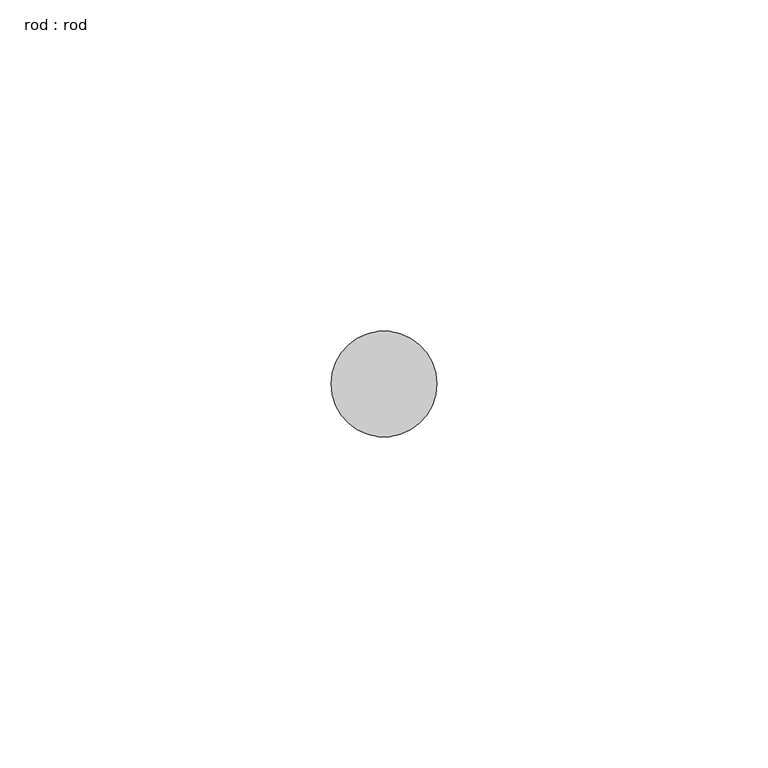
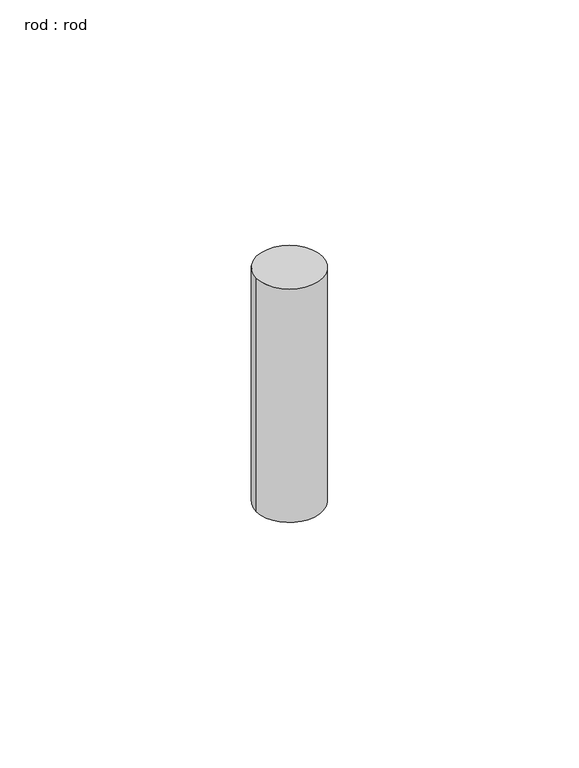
"""IFC4 building model written with IfcOpenShell, lengths in millimetres: unitary equipment geometry, rod : rod."""

from ifc_helpers import new_model, si_unit, point, origin, origin_with_axes, origin_2d, place, context, project, spatial, circle_curve, trimmed, segment, composite_curve, outline, extrude, source, transform, mapped, element, save


def rod_rod_bda5fcc9(model_context):
    return source(origin(), model_context, "Body", "SweptSolid", [
        extrude(outline(composite_curve([segment(trimmed(circle_curve(origin_2d(), 8.0), [point((8.0, 0.0))], [point((-8.0, 0.0))], False, "CARTESIAN"), True, "CONTINUOUS"), segment(trimmed(circle_curve(origin_2d(), 8.0), [point((-8.0, 0.0))], [point((8.0, 0.0))], False, "CARTESIAN"), True, "CONTINUOUS")], self_intersect=False)), origin_with_axes(), (0.0, 0.0, 1.0), 60.0),
    ])


if __name__ == "__main__":
    model = new_model("IFC4")
    model_context = context("Model", 3, world=origin())
    ifc_project = project(units=[si_unit("LENGTHUNIT", "METRE", prefix="MILLI")], contexts=[model_context])
    site = spatial("IfcSite", under=ifc_project)
    building = spatial("IfcBuilding", under=site)
    placement = place(None, origin())
    rod_rod_shape = rod_rod_bda5fcc9(model_context)
    element("IfcUnitaryEquipment", 1, ObjectType="rod : rod", at=placement, inside=building, context=model_context, shape_type="MappedRepresentation", body=[
        mapped(rod_rod_shape, transform((0.0, 0.0, 0.0), x_axis=(1.0, 0.0, 0.0), y_axis=(0.0, 1.0, 0.0), z_axis=(0.0, 0.0, 1.0))),
    ])
    save(model, "model.ifc")
